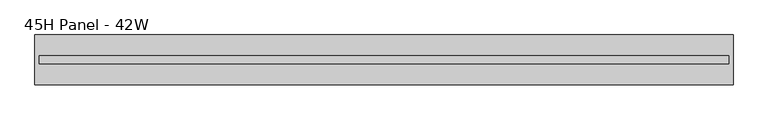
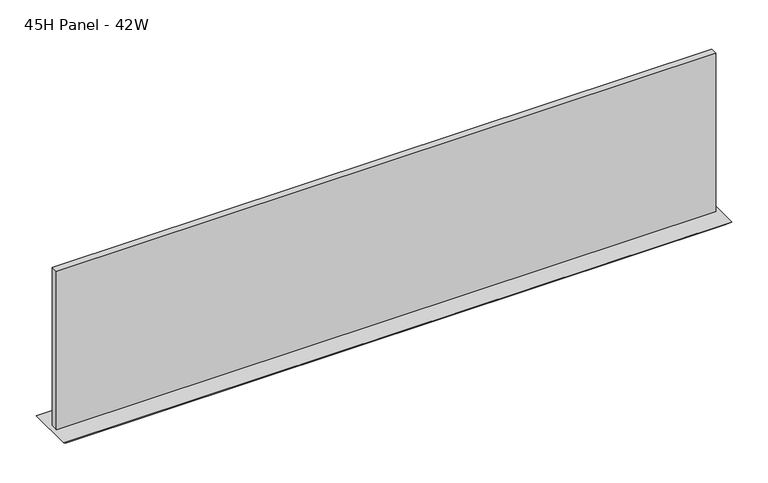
"""IFC4 building model written with IfcOpenShell, lengths in millimetres: furniture geometry, Steelcase - Montage - Tiles - 10H - Frameless Glass Stacker : 45H Panel - 42W."""

from ifc_helpers import new_model, si_unit, frame, origin, place, context, project, spatial, polyline, outline, extrude, faceted_brep, source, transform, mapped, element, save


def furniture_45h_panel_42w_6a6dfa50(model_context):
    return source(origin(), model_context, "Body", "SolidModel", [
        faceted_brep([(1066.8, -38.1000015, 1136.65), (0.0, -38.1000015, 1136.65), (6.35, -31.7500015, 1130.3), (1060.45, -31.7500015, 1130.3), (6.35, 31.7500015, 1130.3), (1060.45, 31.7500015, 1130.3), (0.0, 38.1000015, 1136.65), (1066.8, 38.1000015, 1136.65)], [[[0, 1, 2, 3]], [[3, 2, 4, 5]], [[6, 7, 5, 4]], [[1, 0, 7, 6]], [[2, 1, 6, 4]], [[0, 3, 5, 7]]]),
        extrude(outline(polyline([(1060.0181828, -5.9944001), (6.7818001, -5.9944001), (6.7818001, 5.9944008), (1060.0181828, 5.9944008), (1060.0181828, -5.9944001)])), frame((0.0, 0.0, 1136.65), z_axis=(0.0, 0.0, 1.0), x_axis=(1.0, 0.0, 0.0)), (0.0, 0.0, 1.0), 267.7160475),
    ])


if __name__ == "__main__":
    model = new_model("IFC4")
    model_context = context("Model", 3, world=origin())
    ifc_project = project(units=[si_unit("LENGTHUNIT", "METRE", prefix="MILLI")], contexts=[model_context])
    site = spatial("IfcSite", under=ifc_project)
    building = spatial("IfcBuilding", under=site)
    placement = place(None, origin())
    furniture_45h_panel_42w_shape = furniture_45h_panel_42w_6a6dfa50(model_context)
    element("IfcFurniture", 1, ObjectType="Steelcase - Montage - Tiles - 10H - Frameless Glass Stacker : 45H Panel - 42W", at=placement, inside=building, context=model_context, shape_type="MappedRepresentation", body=[
        mapped(furniture_45h_panel_42w_shape, transform((0.0, 0.0, 0.0), x_axis=(1.0, 0.0, 0.0), y_axis=(0.0, 1.0, 0.0), z_axis=(0.0, 0.0, 1.0))),
    ])
    save(model, "model.ifc")
